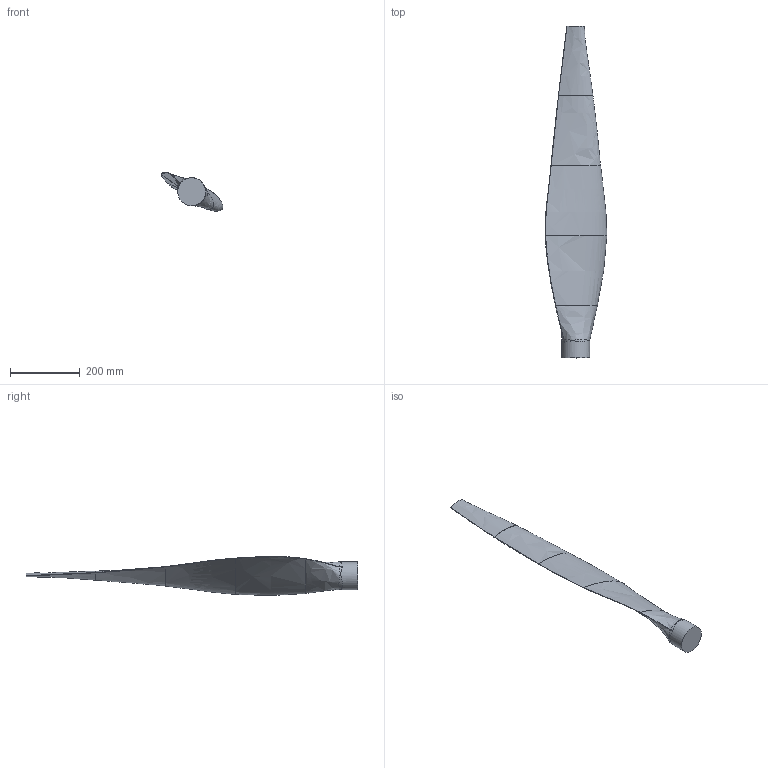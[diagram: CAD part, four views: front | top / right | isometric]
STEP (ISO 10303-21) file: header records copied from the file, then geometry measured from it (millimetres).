
FILE_DESCRIPTION(/* description */ (''),/* implementation_level */ '2;1');
FILE_NAME(/* name */ 'Assieme1_eolico_naca2.stp',/* time_stamp */ '2025-02-14T09:22:35+01:00',/* author */ ('Ryzen5700u'),/* organization */ (''),/* preprocessor_version */ 'ST-DEVELOPER v20',/* originating_system */ 'Autodesk Inventor 2025',/* authorisation */ '');
FILE_SCHEMA (('AUTOMOTIVE_DESIGN { 1 0 10303 214 3 1 1 }'));
Length unit declared in the file: millimetre
Products named in the file (6): Assieme2; aolico naca_200mm_A; aolico naca_200mm_B; aolico naca_200mm_C; aolico naca_200mm_D; aolico naca_200mm_E
Assembly tree (5 placements, depth 2):
  Assieme2
    aolico naca_200mm_A
    aolico naca_200mm_B
    aolico naca_200mm_C
    aolico naca_200mm_D
    aolico naca_200mm_E
Bounding box: 176.13 x 950 x 111.75 mm (x, y, z)
Volume: 3421638.2 mm3; surface area: 325137.4 mm2
Topology: 5 solids, 5 shells, 69 faces, 160 edges, 96 vertices
Faces by surface type: cylinder 22, cone 21, bspline 16, plane 10
Full cylindrical faces by diameter (mm): 6 x1, 8 x20, 80 x1
Entity records: 8827 total; most frequent: CARTESIAN_POINT 7266, DIRECTION 261, ORIENTED_EDGE 258, EDGE_CURVE 129, AXIS2_PLACEMENT_3D 109, VERTEX_POINT 91, EDGE_LOOP 90, FACE_OUTER_BOUND 69
